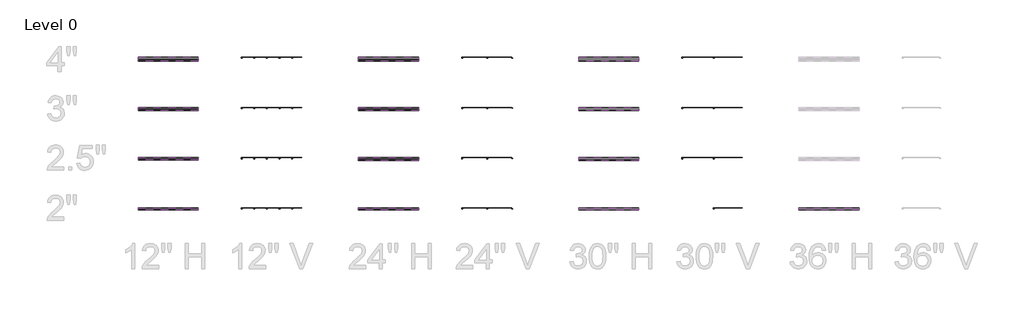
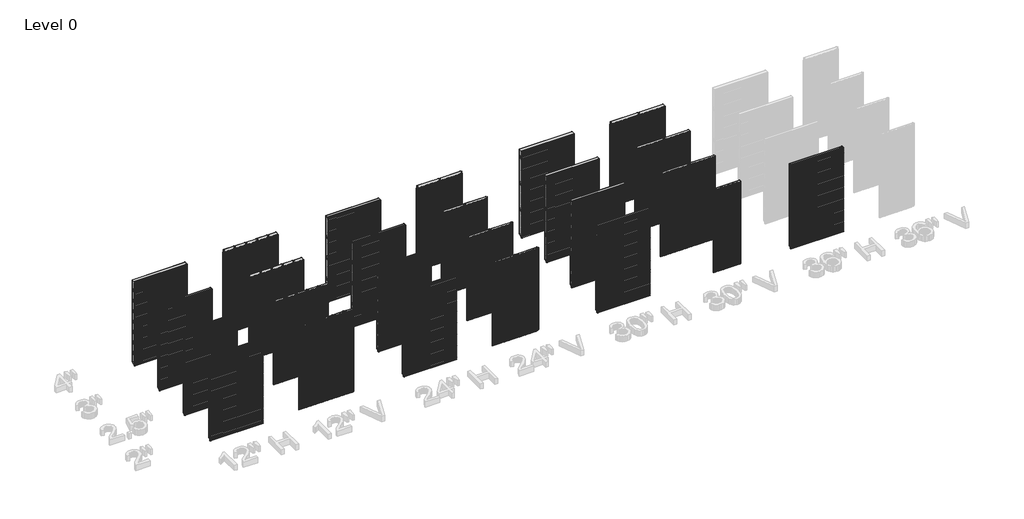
# One storey, part 1 of 5: 102 plates.
"""IFC4 building model written with IfcOpenShell, lengths in millimetres."""

from ifc_helpers import new_model, si_unit, origin, place, context, project, spatial, transform, mapped, element, save
from components import plate_3e87048a, plate_a52f081f, plate_64ede34e, plate_5dd44344, plate_45945243, plate_d9096f4b, plate_2a746afc, plate_29fb56dc, plate_127f21c6, plate_3a640c50, plate_d8e40084, plate_45d4bc66, plate_ac27c202, plate_72ebc10c, plate_b5e3bbd7, plate_971f1716, plate_cbad6302, plate_23679fd6, plate_854ece45, plate_8af9aa11, plate_0a50ad54, plate_96c78911, plate_d13a5570, plate_e58c1bb9, plate_10581ff8, plate_70c22ccc, plate_da60bb30, plate_705a8be8, plate_76d2fa18, plate_c0eab981, plate_2a4f19af, plate_209ea606, plate_c93acdc9, plate_9ff295e8, plate_a8491a3e, plate_1e80f747, plate_344c1e35, plate_840cddba, plate_5aa9691e, plate_24a66fb3, plate_a6e8fc1d, plate_d86a47c3, plate_fa4b8fa4, plate_f1faa5ed, plate_ed56b437

model = new_model("IFC4")

# Units and contexts
model_context = context("Model", 3, world=origin())
ifc_project = project(units=[si_unit("LENGTHUNIT", "METRE", prefix="MILLI")], contexts=[model_context])

# Site, building, storey
site = spatial("IfcSite", under=ifc_project)
building = spatial("IfcBuilding", under=site)
storey = spatial("IfcBuildingStorey", under=building, Name="Level 0", Elevation=0.0)

# Plates
placement = place(None, origin())
plate_shape = plate_3e87048a(model_context)
plate_2_shape = plate_a52f081f(model_context)
element("IfcPlate", 1, ObjectType="KIP-36-DWHR-R19-CP-Hz-S : Hz 2\"", at=placement, inside=storey, context=model_context, shape_type="MappedRepresentation", body=[
    mapped(plate_shape, transform((-13782.7250935, 10881.8207172, 0.0), x_axis=(1.0, 0.0, 0.0), y_axis=(0.0, 1.0, 0.0), z_axis=(0.0, 0.0, 1.0))),
    mapped(plate_2_shape, transform((-13782.7250935, 10881.8207172, 0.0), x_axis=(1.0, 0.0, 0.0), y_axis=(0.0, 1.0, 0.0), z_axis=(0.0, 0.0, 1.0))),
])
element("IfcPlate", 2, ObjectType="KIP-36-DWHR-R19-CP-Hz-S : Hz 2\"", at=placement, inside=storey, context=model_context, shape_type="MappedRepresentation", body=[
    mapped(plate_shape, transform((-13782.7250935, 10881.8207172, 914.4), x_axis=(1.0, 0.0, 0.0), y_axis=(0.0, 1.0, 0.0), z_axis=(0.0, 0.0, 1.0))),
    mapped(plate_2_shape, transform((-13782.7250935, 10881.8207172, 914.4), x_axis=(1.0, 0.0, 0.0), y_axis=(0.0, 1.0, 0.0), z_axis=(0.0, 0.0, 1.0))),
])
plate_3_shape = plate_64ede34e(model_context)
element("IfcPlate", 3, ObjectType="KIP-36-DWHR-R19-CP-Hz-S : Hz 2\"", at=placement, inside=storey, context=model_context, shape_type="MappedRepresentation", body=[
    mapped(plate_3_shape, transform((-13782.7250935, 10881.8207172, 1828.8), x_axis=(1.0, 0.0, 0.0), y_axis=(0.0, 1.0, 0.0), z_axis=(0.0, 0.0, 1.0))),
])
plate_4_shape = plate_5dd44344(model_context)
element("IfcPlate", 4, ObjectType="KIP-30-DWHR-R19-CP-Hz-S : Hz 2\"", at=placement, inside=storey, context=model_context, shape_type="MappedRepresentation", body=[
    mapped(plate_4_shape, transform((-19116.7250935, 10881.8207172, 0.0), x_axis=(1.0, 0.0, 0.0), y_axis=(0.0, 1.0, 0.0), z_axis=(0.0, 0.0, 1.0))),
])
element("IfcPlate", 5, ObjectType="KIP-30-DWHR-R19-CP-Hz-S : Hz 2\"", at=placement, inside=storey, context=model_context, shape_type="MappedRepresentation", body=[
    mapped(plate_4_shape, transform((-19116.7250935, 10881.8207172, 762.0), x_axis=(1.0, 0.0, 0.0), y_axis=(0.0, 1.0, 0.0), z_axis=(0.0, 0.0, 1.0))),
])
element("IfcPlate", 6, ObjectType="KIP-30-DWHR-R19-CP-Hz-S : Hz 2\"", at=placement, inside=storey, context=model_context, shape_type="MappedRepresentation", body=[
    mapped(plate_4_shape, transform((-19116.7250935, 10881.8207172, 1524.0), x_axis=(1.0, 0.0, 0.0), y_axis=(0.0, 1.0, 0.0), z_axis=(0.0, 0.0, 1.0))),
])
plate_5_shape = plate_45945243(model_context)
element("IfcPlate", 7, ObjectType="KIP-30-DWHR-R19-CP-Hz-S : Hz 2\"", at=placement, inside=storey, context=model_context, shape_type="MappedRepresentation", body=[
    mapped(plate_5_shape, transform((-19116.7250935, 10881.8207172, 2286.0), x_axis=(1.0, 0.0, 0.0), y_axis=(0.0, 1.0, 0.0), z_axis=(0.0, 0.0, 1.0))),
])
plate_6_shape = plate_d9096f4b(model_context)
element("IfcPlate", 8, ObjectType="KIP-24-DWHR-R19-CP-Hz-S : Hz 2\"", at=placement, inside=storey, context=model_context, shape_type="MappedRepresentation", body=[
    mapped(plate_6_shape, transform((-24450.7250935, 10881.8207172, 0.0), x_axis=(1.0, 0.0, 0.0), y_axis=(0.0, 1.0, 0.0), z_axis=(0.0, 0.0, 1.0))),
])
element("IfcPlate", 9, ObjectType="KIP-24-DWHR-R19-CP-Hz-S : Hz 2\"", at=placement, inside=storey, context=model_context, shape_type="MappedRepresentation", body=[
    mapped(plate_6_shape, transform((-24450.7250935, 10881.8207172, 609.6), x_axis=(1.0, 0.0, 0.0), y_axis=(0.0, 1.0, 0.0), z_axis=(0.0, 0.0, 1.0))),
])
element("IfcPlate", 10, ObjectType="KIP-24-DWHR-R19-CP-Hz-S : Hz 2\"", at=placement, inside=storey, context=model_context, shape_type="MappedRepresentation", body=[
    mapped(plate_6_shape, transform((-24450.7250935, 10881.8207172, 1219.2), x_axis=(1.0, 0.0, 0.0), y_axis=(0.0, 1.0, 0.0), z_axis=(0.0, 0.0, 1.0))),
])
plate_7_shape = plate_2a746afc(model_context)
element("IfcPlate", 11, ObjectType="KIP-24-DWHR-R19-CP-Hz-S : Hz 2\"", at=placement, inside=storey, context=model_context, shape_type="MappedRepresentation", body=[
    mapped(plate_7_shape, transform((-24450.7250935, 10881.8207172, 1828.8), x_axis=(1.0, 0.0, 0.0), y_axis=(0.0, 1.0, 0.0), z_axis=(0.0, 0.0, 1.0))),
])
plate_8_shape = plate_29fb56dc(model_context)
element("IfcPlate", 12, ObjectType="KIP-12-DWHR-R19-CP-Hz-S : Hz 2\"", at=placement, inside=storey, context=model_context, shape_type="MappedRepresentation", body=[
    mapped(plate_8_shape, transform((-29784.7250935, 10881.8207172, 0.0), x_axis=(1.0, 0.0, 0.0), y_axis=(0.0, 1.0, 0.0), z_axis=(0.0, 0.0, 1.0))),
])
element("IfcPlate", 13, ObjectType="KIP-12-DWHR-R19-CP-Hz-S : Hz 2\"", at=placement, inside=storey, context=model_context, shape_type="MappedRepresentation", body=[
    mapped(plate_8_shape, transform((-29784.7250935, 10881.8207172, 304.8), x_axis=(1.0, 0.0, 0.0), y_axis=(0.0, 1.0, 0.0), z_axis=(0.0, 0.0, 1.0))),
])
element("IfcPlate", 14, ObjectType="KIP-12-DWHR-R19-CP-Hz-S : Hz 2\"", at=placement, inside=storey, context=model_context, shape_type="MappedRepresentation", body=[
    mapped(plate_8_shape, transform((-29784.7250935, 10881.8207172, 609.6), x_axis=(1.0, 0.0, 0.0), y_axis=(0.0, 1.0, 0.0), z_axis=(0.0, 0.0, 1.0))),
])
element("IfcPlate", 15, ObjectType="KIP-12-DWHR-R19-CP-Hz-S : Hz 2\"", at=placement, inside=storey, context=model_context, shape_type="MappedRepresentation", body=[
    mapped(plate_8_shape, transform((-29784.7250935, 10881.8207172, 914.4), x_axis=(1.0, 0.0, 0.0), y_axis=(0.0, 1.0, 0.0), z_axis=(0.0, 0.0, 1.0))),
])
element("IfcPlate", 16, ObjectType="KIP-12-DWHR-R19-CP-Hz-S : Hz 2\"", at=placement, inside=storey, context=model_context, shape_type="MappedRepresentation", body=[
    mapped(plate_8_shape, transform((-29784.7250935, 10881.8207172, 1219.2), x_axis=(1.0, 0.0, 0.0), y_axis=(0.0, 1.0, 0.0), z_axis=(0.0, 0.0, 1.0))),
])
element("IfcPlate", 17, ObjectType="KIP-12-DWHR-R19-CP-Hz-S : Hz 2\"", at=placement, inside=storey, context=model_context, shape_type="MappedRepresentation", body=[
    mapped(plate_8_shape, transform((-29784.7250935, 10881.8207172, 1524.0), x_axis=(1.0, 0.0, 0.0), y_axis=(0.0, 1.0, 0.0), z_axis=(0.0, 0.0, 1.0))),
])
element("IfcPlate", 18, ObjectType="KIP-12-DWHR-R19-CP-Hz-S : Hz 2\"", at=placement, inside=storey, context=model_context, shape_type="MappedRepresentation", body=[
    mapped(plate_8_shape, transform((-29784.7250935, 10881.8207172, 1828.8), x_axis=(1.0, 0.0, 0.0), y_axis=(0.0, 1.0, 0.0), z_axis=(0.0, 0.0, 1.0))),
])
plate_9_shape = plate_127f21c6(model_context)
element("IfcPlate", 19, ObjectType="KIP-12-DWHR-R19-CP-Hz-S : Hz 2\"", at=placement, inside=storey, context=model_context, shape_type="MappedRepresentation", body=[
    mapped(plate_9_shape, transform((-29784.7250935, 10881.8207172, 2133.6), x_axis=(1.0, 0.0, 0.0), y_axis=(0.0, 1.0, 0.0), z_axis=(0.0, 0.0, 1.0))),
])
plate_10_shape = plate_3a640c50(model_context)
element("IfcPlate", 20, ObjectType="KIP-30-DWHR-R19-CP-Hz-S : Hz 2.5\"", at=placement, inside=storey, context=model_context, shape_type="MappedRepresentation", body=[
    mapped(plate_10_shape, transform((-19116.7250935, 12101.0207172, 0.0), x_axis=(1.0, 0.0, 0.0), y_axis=(0.0, 1.0, 0.0), z_axis=(0.0, 0.0, 1.0))),
])
element("IfcPlate", 21, ObjectType="KIP-30-DWHR-R19-CP-Hz-S : Hz 2.5\"", at=placement, inside=storey, context=model_context, shape_type="MappedRepresentation", body=[
    mapped(plate_10_shape, transform((-19116.7250935, 12101.0207172, 762.0), x_axis=(1.0, 0.0, 0.0), y_axis=(0.0, 1.0, 0.0), z_axis=(0.0, 0.0, 1.0))),
])
element("IfcPlate", 22, ObjectType="KIP-30-DWHR-R19-CP-Hz-S : Hz 2.5\"", at=placement, inside=storey, context=model_context, shape_type="MappedRepresentation", body=[
    mapped(plate_10_shape, transform((-19116.7250935, 12101.0207172, 1524.0), x_axis=(1.0, 0.0, 0.0), y_axis=(0.0, 1.0, 0.0), z_axis=(0.0, 0.0, 1.0))),
])
plate_11_shape = plate_d8e40084(model_context)
element("IfcPlate", 23, ObjectType="KIP-30-DWHR-R19-CP-Hz-S : Hz 2.5\"", at=placement, inside=storey, context=model_context, shape_type="MappedRepresentation", body=[
    mapped(plate_11_shape, transform((-19116.7250935, 12101.0207172, 2286.0), x_axis=(1.0, 0.0, 0.0), y_axis=(0.0, 1.0, 0.0), z_axis=(0.0, 0.0, 1.0))),
])
plate_12_shape = plate_45d4bc66(model_context)
element("IfcPlate", 24, ObjectType="KIP-24-DWHR-R19-CP-Hz-S : Hz 2.5\"", at=placement, inside=storey, context=model_context, shape_type="MappedRepresentation", body=[
    mapped(plate_12_shape, transform((-24450.7250935, 12101.0207172, 0.0), x_axis=(1.0, 0.0, 0.0), y_axis=(0.0, 1.0, 0.0), z_axis=(0.0, 0.0, 1.0))),
])
element("IfcPlate", 25, ObjectType="KIP-24-DWHR-R19-CP-Hz-S : Hz 2.5\"", at=placement, inside=storey, context=model_context, shape_type="MappedRepresentation", body=[
    mapped(plate_12_shape, transform((-24450.7250935, 12101.0207172, 609.6), x_axis=(1.0, 0.0, 0.0), y_axis=(0.0, 1.0, 0.0), z_axis=(0.0, 0.0, 1.0))),
])
element("IfcPlate", 26, ObjectType="KIP-24-DWHR-R19-CP-Hz-S : Hz 2.5\"", at=placement, inside=storey, context=model_context, shape_type="MappedRepresentation", body=[
    mapped(plate_12_shape, transform((-24450.7250935, 12101.0207172, 1219.2), x_axis=(1.0, 0.0, 0.0), y_axis=(0.0, 1.0, 0.0), z_axis=(0.0, 0.0, 1.0))),
])
plate_13_shape = plate_ac27c202(model_context)
element("IfcPlate", 27, ObjectType="KIP-24-DWHR-R19-CP-Hz-S : Hz 2.5\"", at=placement, inside=storey, context=model_context, shape_type="MappedRepresentation", body=[
    mapped(plate_13_shape, transform((-24450.7250935, 12101.0207172, 1828.8), x_axis=(1.0, 0.0, 0.0), y_axis=(0.0, 1.0, 0.0), z_axis=(0.0, 0.0, 1.0))),
])
element("IfcPlate", 28, ObjectType="KIP-12-DWHR-R19-CP-Hz-S : Hz 2.5\"", at=placement, inside=storey, context=model_context, shape_type="MappedRepresentation", body=[
    mapped(plate_8_shape, transform((-29784.7250935, 12101.0207172, 0.0), x_axis=(1.0, 0.0, 0.0), y_axis=(0.0, 1.0, 0.0), z_axis=(0.0, 0.0, 1.0))),
])
element("IfcPlate", 29, ObjectType="KIP-12-DWHR-R19-CP-Hz-S : Hz 2.5\"", at=placement, inside=storey, context=model_context, shape_type="MappedRepresentation", body=[
    mapped(plate_8_shape, transform((-29784.7250935, 12101.0207172, 304.8), x_axis=(1.0, 0.0, 0.0), y_axis=(0.0, 1.0, 0.0), z_axis=(0.0, 0.0, 1.0))),
])
element("IfcPlate", 30, ObjectType="KIP-12-DWHR-R19-CP-Hz-S : Hz 2.5\"", at=placement, inside=storey, context=model_context, shape_type="MappedRepresentation", body=[
    mapped(plate_8_shape, transform((-29784.7250935, 12101.0207172, 609.6), x_axis=(1.0, 0.0, 0.0), y_axis=(0.0, 1.0, 0.0), z_axis=(0.0, 0.0, 1.0))),
])
element("IfcPlate", 31, ObjectType="KIP-12-DWHR-R19-CP-Hz-S : Hz 2.5\"", at=placement, inside=storey, context=model_context, shape_type="MappedRepresentation", body=[
    mapped(plate_8_shape, transform((-29784.7250935, 12101.0207172, 914.4), x_axis=(1.0, 0.0, 0.0), y_axis=(0.0, 1.0, 0.0), z_axis=(0.0, 0.0, 1.0))),
])
element("IfcPlate", 32, ObjectType="KIP-12-DWHR-R19-CP-Hz-S : Hz 2.5\"", at=placement, inside=storey, context=model_context, shape_type="MappedRepresentation", body=[
    mapped(plate_8_shape, transform((-29784.7250935, 12101.0207172, 1219.2), x_axis=(1.0, 0.0, 0.0), y_axis=(0.0, 1.0, 0.0), z_axis=(0.0, 0.0, 1.0))),
])
element("IfcPlate", 33, ObjectType="KIP-12-DWHR-R19-CP-Hz-S : Hz 2.5\"", at=placement, inside=storey, context=model_context, shape_type="MappedRepresentation", body=[
    mapped(plate_8_shape, transform((-29784.7250935, 12101.0207172, 1524.0), x_axis=(1.0, 0.0, 0.0), y_axis=(0.0, 1.0, 0.0), z_axis=(0.0, 0.0, 1.0))),
])
element("IfcPlate", 34, ObjectType="KIP-12-DWHR-R19-CP-Hz-S : Hz 2.5\"", at=placement, inside=storey, context=model_context, shape_type="MappedRepresentation", body=[
    mapped(plate_8_shape, transform((-29784.7250935, 12101.0207172, 1828.8), x_axis=(1.0, 0.0, 0.0), y_axis=(0.0, 1.0, 0.0), z_axis=(0.0, 0.0, 1.0))),
])
element("IfcPlate", 35, ObjectType="KIP-12-DWHR-R19-CP-Hz-S : Hz 2.5\"", at=placement, inside=storey, context=model_context, shape_type="MappedRepresentation", body=[
    mapped(plate_9_shape, transform((-29784.7250935, 12101.0207172, 2133.6), x_axis=(1.0, 0.0, 0.0), y_axis=(0.0, 1.0, 0.0), z_axis=(0.0, 0.0, 1.0))),
])
plate_14_shape = plate_72ebc10c(model_context)
element("IfcPlate", 36, ObjectType="KIP-30-DWHR-R19-CP-Hz-S : Hz 3\"", at=placement, inside=storey, context=model_context, shape_type="MappedRepresentation", body=[
    mapped(plate_14_shape, transform((-19116.7250935, 13320.2207172, 0.0), x_axis=(1.0, 0.0, 0.0), y_axis=(0.0, 1.0, 0.0), z_axis=(0.0, 0.0, 1.0))),
])
element("IfcPlate", 37, ObjectType="KIP-30-DWHR-R19-CP-Hz-S : Hz 3\"", at=placement, inside=storey, context=model_context, shape_type="MappedRepresentation", body=[
    mapped(plate_14_shape, transform((-19116.7250935, 13320.2207172, 762.0), x_axis=(1.0, 0.0, 0.0), y_axis=(0.0, 1.0, 0.0), z_axis=(0.0, 0.0, 1.0))),
])
element("IfcPlate", 38, ObjectType="KIP-30-DWHR-R19-CP-Hz-S : Hz 3\"", at=placement, inside=storey, context=model_context, shape_type="MappedRepresentation", body=[
    mapped(plate_14_shape, transform((-19116.7250935, 13320.2207172, 1524.0), x_axis=(1.0, 0.0, 0.0), y_axis=(0.0, 1.0, 0.0), z_axis=(0.0, 0.0, 1.0))),
])
plate_15_shape = plate_b5e3bbd7(model_context)
element("IfcPlate", 39, ObjectType="KIP-30-DWHR-R19-CP-Hz-S : Hz 3\"", at=placement, inside=storey, context=model_context, shape_type="MappedRepresentation", body=[
    mapped(plate_15_shape, transform((-19116.7250935, 13320.2207172, 2286.0), x_axis=(1.0, 0.0, 0.0), y_axis=(0.0, 1.0, 0.0), z_axis=(0.0, 0.0, 1.0))),
])
plate_16_shape = plate_971f1716(model_context)
element("IfcPlate", 40, ObjectType="KIP-24-DWHR-R19-CP-Hz-S : Hz 3\"", at=placement, inside=storey, context=model_context, shape_type="MappedRepresentation", body=[
    mapped(plate_16_shape, transform((-24450.7250935, 13320.2207172, 0.0), x_axis=(1.0, 0.0, 0.0), y_axis=(0.0, 1.0, 0.0), z_axis=(0.0, 0.0, 1.0))),
])
element("IfcPlate", 41, ObjectType="KIP-24-DWHR-R19-CP-Hz-S : Hz 3\"", at=placement, inside=storey, context=model_context, shape_type="MappedRepresentation", body=[
    mapped(plate_16_shape, transform((-24450.7250935, 13320.2207172, 609.6), x_axis=(1.0, 0.0, 0.0), y_axis=(0.0, 1.0, 0.0), z_axis=(0.0, 0.0, 1.0))),
])
element("IfcPlate", 42, ObjectType="KIP-24-DWHR-R19-CP-Hz-S : Hz 3\"", at=placement, inside=storey, context=model_context, shape_type="MappedRepresentation", body=[
    mapped(plate_16_shape, transform((-24450.7250935, 13320.2207172, 1219.2), x_axis=(1.0, 0.0, 0.0), y_axis=(0.0, 1.0, 0.0), z_axis=(0.0, 0.0, 1.0))),
])
plate_17_shape = plate_cbad6302(model_context)
element("IfcPlate", 43, ObjectType="KIP-24-DWHR-R19-CP-Hz-S : Hz 3\"", at=placement, inside=storey, context=model_context, shape_type="MappedRepresentation", body=[
    mapped(plate_17_shape, transform((-24450.7250935, 13320.2207172, 1828.8), x_axis=(1.0, 0.0, 0.0), y_axis=(0.0, 1.0, 0.0), z_axis=(0.0, 0.0, 1.0))),
])
plate_18_shape = plate_23679fd6(model_context)
element("IfcPlate", 44, ObjectType="KIP-12-DWHR-R19-CP-Hz-S : Hz 3\"", at=placement, inside=storey, context=model_context, shape_type="MappedRepresentation", body=[
    mapped(plate_18_shape, transform((-29784.7250935, 13320.2207172, 0.0), x_axis=(1.0, 0.0, 0.0), y_axis=(0.0, 1.0, 0.0), z_axis=(0.0, 0.0, 1.0))),
])
element("IfcPlate", 45, ObjectType="KIP-12-DWHR-R19-CP-Hz-S : Hz 3\"", at=placement, inside=storey, context=model_context, shape_type="MappedRepresentation", body=[
    mapped(plate_18_shape, transform((-29784.7250935, 13320.2207172, 304.8), x_axis=(1.0, 0.0, 0.0), y_axis=(0.0, 1.0, 0.0), z_axis=(0.0, 0.0, 1.0))),
])
element("IfcPlate", 46, ObjectType="KIP-12-DWHR-R19-CP-Hz-S : Hz 3\"", at=placement, inside=storey, context=model_context, shape_type="MappedRepresentation", body=[
    mapped(plate_18_shape, transform((-29784.7250935, 13320.2207172, 609.6), x_axis=(1.0, 0.0, 0.0), y_axis=(0.0, 1.0, 0.0), z_axis=(0.0, 0.0, 1.0))),
])
element("IfcPlate", 47, ObjectType="KIP-12-DWHR-R19-CP-Hz-S : Hz 3\"", at=placement, inside=storey, context=model_context, shape_type="MappedRepresentation", body=[
    mapped(plate_18_shape, transform((-29784.7250935, 13320.2207172, 914.4), x_axis=(1.0, 0.0, 0.0), y_axis=(0.0, 1.0, 0.0), z_axis=(0.0, 0.0, 1.0))),
])
element("IfcPlate", 48, ObjectType="KIP-12-DWHR-R19-CP-Hz-S : Hz 3\"", at=placement, inside=storey, context=model_context, shape_type="MappedRepresentation", body=[
    mapped(plate_18_shape, transform((-29784.7250935, 13320.2207172, 1219.2), x_axis=(1.0, 0.0, 0.0), y_axis=(0.0, 1.0, 0.0), z_axis=(0.0, 0.0, 1.0))),
])
element("IfcPlate", 49, ObjectType="KIP-12-DWHR-R19-CP-Hz-S : Hz 3\"", at=placement, inside=storey, context=model_context, shape_type="MappedRepresentation", body=[
    mapped(plate_18_shape, transform((-29784.7250935, 13320.2207172, 1524.0), x_axis=(1.0, 0.0, 0.0), y_axis=(0.0, 1.0, 0.0), z_axis=(0.0, 0.0, 1.0))),
])
element("IfcPlate", 50, ObjectType="KIP-12-DWHR-R19-CP-Hz-S : Hz 3\"", at=placement, inside=storey, context=model_context, shape_type="MappedRepresentation", body=[
    mapped(plate_18_shape, transform((-29784.7250935, 13320.2207172, 1828.8), x_axis=(1.0, 0.0, 0.0), y_axis=(0.0, 1.0, 0.0), z_axis=(0.0, 0.0, 1.0))),
])
plate_19_shape = plate_854ece45(model_context)
element("IfcPlate", 51, ObjectType="KIP-12-DWHR-R19-CP-Hz-S : Hz 3\"", at=placement, inside=storey, context=model_context, shape_type="MappedRepresentation", body=[
    mapped(plate_19_shape, transform((-29784.7250935, 13320.2207172, 2133.6), x_axis=(1.0, 0.0, 0.0), y_axis=(0.0, 1.0, 0.0), z_axis=(0.0, 0.0, 1.0))),
])
plate_20_shape = plate_8af9aa11(model_context)
element("IfcPlate", 52, ObjectType="KIP-30-DWHR-R19-CP-Hz-S : Hz 4\"", at=placement, inside=storey, context=model_context, shape_type="MappedRepresentation", body=[
    mapped(plate_20_shape, transform((-19116.7250935, 14539.4207172, 0.0), x_axis=(1.0, 0.0, 0.0), y_axis=(0.0, 1.0, 0.0), z_axis=(0.0, 0.0, 1.0))),
])
element("IfcPlate", 53, ObjectType="KIP-30-DWHR-R19-CP-Hz-S : Hz 4\"", at=placement, inside=storey, context=model_context, shape_type="MappedRepresentation", body=[
    mapped(plate_20_shape, transform((-19116.7250935, 14539.4207172, 762.0), x_axis=(1.0, 0.0, 0.0), y_axis=(0.0, 1.0, 0.0), z_axis=(0.0, 0.0, 1.0))),
])
element("IfcPlate", 54, ObjectType="KIP-30-DWHR-R19-CP-Hz-S : Hz 4\"", at=placement, inside=storey, context=model_context, shape_type="MappedRepresentation", body=[
    mapped(plate_20_shape, transform((-19116.7250935, 14539.4207172, 1524.0), x_axis=(1.0, 0.0, 0.0), y_axis=(0.0, 1.0, 0.0), z_axis=(0.0, 0.0, 1.0))),
])
plate_21_shape = plate_0a50ad54(model_context)
element("IfcPlate", 55, ObjectType="KIP-30-DWHR-R19-CP-Hz-S : Hz 4\"", at=placement, inside=storey, context=model_context, shape_type="MappedRepresentation", body=[
    mapped(plate_21_shape, transform((-19116.7250935, 14539.4207172, 2286.0), x_axis=(1.0, 0.0, 0.0), y_axis=(0.0, 1.0, 0.0), z_axis=(0.0, 0.0, 1.0))),
])
plate_22_shape = plate_96c78911(model_context)
element("IfcPlate", 56, ObjectType="KIP-24-DWHR-R19-CP-Hz-S : Hz 4\"", at=placement, inside=storey, context=model_context, shape_type="MappedRepresentation", body=[
    mapped(plate_22_shape, transform((-24450.7250935, 14539.4207172, 0.0), x_axis=(1.0, 0.0, 0.0), y_axis=(0.0, 1.0, 0.0), z_axis=(0.0, 0.0, 1.0))),
])
element("IfcPlate", 57, ObjectType="KIP-24-DWHR-R19-CP-Hz-S : Hz 4\"", at=placement, inside=storey, context=model_context, shape_type="MappedRepresentation", body=[
    mapped(plate_22_shape, transform((-24450.7250935, 14539.4207172, 609.6), x_axis=(1.0, 0.0, 0.0), y_axis=(0.0, 1.0, 0.0), z_axis=(0.0, 0.0, 1.0))),
])
element("IfcPlate", 58, ObjectType="KIP-24-DWHR-R19-CP-Hz-S : Hz 4\"", at=placement, inside=storey, context=model_context, shape_type="MappedRepresentation", body=[
    mapped(plate_22_shape, transform((-24450.7250935, 14539.4207172, 1219.2), x_axis=(1.0, 0.0, 0.0), y_axis=(0.0, 1.0, 0.0), z_axis=(0.0, 0.0, 1.0))),
])
plate_23_shape = plate_d13a5570(model_context)
element("IfcPlate", 59, ObjectType="KIP-24-DWHR-R19-CP-Hz-S : Hz 4\"", at=placement, inside=storey, context=model_context, shape_type="MappedRepresentation", body=[
    mapped(plate_23_shape, transform((-24450.7250935, 14539.4207172, 1828.8), x_axis=(1.0, 0.0, 0.0), y_axis=(0.0, 1.0, 0.0), z_axis=(0.0, 0.0, 1.0))),
])
plate_24_shape = plate_e58c1bb9(model_context)
element("IfcPlate", 60, ObjectType="KIP-12-DWHR-R19-CP-Hz-S : Hz 4\"", at=placement, inside=storey, context=model_context, shape_type="MappedRepresentation", body=[
    mapped(plate_24_shape, transform((-29784.7250935, 14539.4207172, 0.0), x_axis=(1.0, 0.0, 0.0), y_axis=(0.0, 1.0, 0.0), z_axis=(0.0, 0.0, 1.0))),
])
element("IfcPlate", 61, ObjectType="KIP-12-DWHR-R19-CP-Hz-S : Hz 4\"", at=placement, inside=storey, context=model_context, shape_type="MappedRepresentation", body=[
    mapped(plate_24_shape, transform((-29784.7250935, 14539.4207172, 304.8), x_axis=(1.0, 0.0, 0.0), y_axis=(0.0, 1.0, 0.0), z_axis=(0.0, 0.0, 1.0))),
])
element("IfcPlate", 62, ObjectType="KIP-12-DWHR-R19-CP-Hz-S : Hz 4\"", at=placement, inside=storey, context=model_context, shape_type="MappedRepresentation", body=[
    mapped(plate_24_shape, transform((-29784.7250935, 14539.4207172, 609.6), x_axis=(1.0, 0.0, 0.0), y_axis=(0.0, 1.0, 0.0), z_axis=(0.0, 0.0, 1.0))),
])
element("IfcPlate", 63, ObjectType="KIP-12-DWHR-R19-CP-Hz-S : Hz 4\"", at=placement, inside=storey, context=model_context, shape_type="MappedRepresentation", body=[
    mapped(plate_24_shape, transform((-29784.7250935, 14539.4207172, 914.4), x_axis=(1.0, 0.0, 0.0), y_axis=(0.0, 1.0, 0.0), z_axis=(0.0, 0.0, 1.0))),
])
element("IfcPlate", 64, ObjectType="KIP-12-DWHR-R19-CP-Hz-S : Hz 4\"", at=placement, inside=storey, context=model_context, shape_type="MappedRepresentation", body=[
    mapped(plate_24_shape, transform((-29784.7250935, 14539.4207172, 1219.2), x_axis=(1.0, 0.0, 0.0), y_axis=(0.0, 1.0, 0.0), z_axis=(0.0, 0.0, 1.0))),
])
element("IfcPlate", 65, ObjectType="KIP-12-DWHR-R19-CP-Hz-S : Hz 4\"", at=placement, inside=storey, context=model_context, shape_type="MappedRepresentation", body=[
    mapped(plate_24_shape, transform((-29784.7250935, 14539.4207172, 1524.0), x_axis=(1.0, 0.0, 0.0), y_axis=(0.0, 1.0, 0.0), z_axis=(0.0, 0.0, 1.0))),
])
element("IfcPlate", 66, ObjectType="KIP-12-DWHR-R19-CP-Hz-S : Hz 4\"", at=placement, inside=storey, context=model_context, shape_type="MappedRepresentation", body=[
    mapped(plate_24_shape, transform((-29784.7250935, 14539.4207172, 1828.8), x_axis=(1.0, 0.0, 0.0), y_axis=(0.0, 1.0, 0.0), z_axis=(0.0, 0.0, 1.0))),
])
plate_25_shape = plate_10581ff8(model_context)
element("IfcPlate", 67, ObjectType="KIP-12-DWHR-R19-CP-Hz-S : Hz 4\"", at=placement, inside=storey, context=model_context, shape_type="MappedRepresentation", body=[
    mapped(plate_25_shape, transform((-29784.7250935, 14539.4207172, 2133.6), x_axis=(1.0, 0.0, 0.0), y_axis=(0.0, 1.0, 0.0), z_axis=(0.0, 0.0, 1.0))),
])
plate_26_shape = plate_70c22ccc(model_context)
element("IfcPlate", 68, ObjectType="KIP-30-DWHR-R19-CP-Vt-S : Vt 2\"", at=placement, inside=storey, context=model_context, shape_type="MappedRepresentation", body=[
    mapped(plate_26_shape, transform((-16235.9413834, 10881.8207172, 0.0), x_axis=(1.0, 0.0, 0.0), y_axis=(0.0, 1.0, 0.0), z_axis=(0.0, 0.0, 1.0))),
])
plate_27_shape = plate_da60bb30(model_context)
element("IfcPlate", 69, ObjectType="KIP-24-DWHR-R19-CP-Vt-S : Vt 2\"", at=placement, inside=storey, context=model_context, shape_type="MappedRepresentation", body=[
    mapped(plate_27_shape, transform((-22376.1413834, 10881.8207172, 0.0), x_axis=(1.0, 0.0, 0.0), y_axis=(0.0, 1.0, 0.0), z_axis=(0.0, 0.0, 1.0))),
])
element("IfcPlate", 70, ObjectType="KIP-24-DWHR-R19-CP-Vt-S : Vt 2\"", at=placement, inside=storey, context=model_context, shape_type="MappedRepresentation", body=[
    mapped(plate_27_shape, transform((-21766.5413833, 10881.8207172, 0.0), x_axis=(1.0, 0.0, 0.0), y_axis=(0.0, 1.0, 0.0), z_axis=(0.0, 0.0, 1.0))),
])
plate_28_shape = plate_705a8be8(model_context)
element("IfcPlate", 71, ObjectType="KIP-12-DWHR-R19-CP-Vt-S : Vt 2\"", at=placement, inside=storey, context=model_context, shape_type="MappedRepresentation", body=[
    mapped(plate_28_shape, transform((-27862.5413834, 10881.8207172, 0.0), x_axis=(1.0, 0.0, 0.0), y_axis=(0.0, 1.0, 0.0), z_axis=(0.0, 0.0, 1.0))),
])
element("IfcPlate", 72, ObjectType="KIP-12-DWHR-R19-CP-Vt-S : Vt 2\"", at=placement, inside=storey, context=model_context, shape_type="MappedRepresentation", body=[
    mapped(plate_28_shape, transform((-26948.1413833, 10881.8207172, 0.0), x_axis=(1.0, 0.0, 0.0), y_axis=(0.0, 1.0, 0.0), z_axis=(0.0, 0.0, 1.0))),
])
element("IfcPlate", 73, ObjectType="KIP-12-DWHR-R19-CP-Vt-S : Vt 2\"", at=placement, inside=storey, context=model_context, shape_type="MappedRepresentation", body=[
    mapped(plate_28_shape, transform((-27252.9413833, 10881.8207172, 0.0), x_axis=(1.0, 0.0, 0.0), y_axis=(0.0, 1.0, 0.0), z_axis=(0.0, 0.0, 1.0))),
])
element("IfcPlate", 74, ObjectType="KIP-12-DWHR-R19-CP-Vt-S : Vt 2\"", at=placement, inside=storey, context=model_context, shape_type="MappedRepresentation", body=[
    mapped(plate_28_shape, transform((-27557.7413833, 10881.8207172, 0.0), x_axis=(1.0, 0.0, 0.0), y_axis=(0.0, 1.0, 0.0), z_axis=(0.0, 0.0, 1.0))),
])
plate_29_shape = plate_76d2fa18(model_context)
element("IfcPlate", 75, ObjectType="KIP-12-DWHR-R19-CP-Vt-S : Vt 2\"", at=placement, inside=storey, context=model_context, shape_type="MappedRepresentation", body=[
    mapped(plate_29_shape, transform((-26675.3413834, 10881.8207172, 0.0), x_axis=(1.0, 0.0, 0.0), y_axis=(0.0, 1.0, 0.0), z_axis=(0.0, 0.0, 1.0))),
])
plate_30_shape = plate_c0eab981(model_context)
plate_31_shape = plate_2a4f19af(model_context)
element("IfcPlate", 76, ObjectType="KIP-30-DWHR-R19-CP-Vt-S : Vt 2.5\"", at=placement, inside=storey, context=model_context, shape_type="MappedRepresentation", body=[
    mapped(plate_30_shape, transform((-16965.9413834, 12101.0207172, 0.0), x_axis=(1.0, 0.0, 0.0), y_axis=(0.0, 1.0, 0.0), z_axis=(0.0, 0.0, 1.0))),
    mapped(plate_31_shape, transform((-16965.9413834, 12101.0207172, 0.0), x_axis=(1.0, 0.0, 0.0), y_axis=(0.0, 1.0, 0.0), z_axis=(0.0, 0.0, 1.0))),
])
plate_32_shape = plate_209ea606(model_context)
element("IfcPlate", 77, ObjectType="KIP-30-DWHR-R19-CP-Vt-S : Vt 2.5\"", at=placement, inside=storey, context=model_context, shape_type="MappedRepresentation", body=[
    mapped(plate_32_shape, transform((-16235.9413834, 12101.0207172, 0.0), x_axis=(1.0, 0.0, 0.0), y_axis=(0.0, 1.0, 0.0), z_axis=(0.0, 0.0, 1.0))),
])
plate_33_shape = plate_c93acdc9(model_context)
element("IfcPlate", 78, ObjectType="KIP-24-DWHR-R19-CP-Vt-S : Vt 2.5\"", at=placement, inside=storey, context=model_context, shape_type="MappedRepresentation", body=[
    mapped(plate_33_shape, transform((-22376.1413834, 12101.0207172, 0.0), x_axis=(1.0, 0.0, 0.0), y_axis=(0.0, 1.0, 0.0), z_axis=(0.0, 0.0, 1.0))),
])
element("IfcPlate", 79, ObjectType="KIP-24-DWHR-R19-CP-Vt-S : Vt 2.5\"", at=placement, inside=storey, context=model_context, shape_type="MappedRepresentation", body=[
    mapped(plate_33_shape, transform((-21766.5413833, 12101.0207172, 0.0), x_axis=(1.0, 0.0, 0.0), y_axis=(0.0, 1.0, 0.0), z_axis=(0.0, 0.0, 1.0))),
])
plate_34_shape = plate_9ff295e8(model_context)
element("IfcPlate", 80, ObjectType="KIP-12-DWHR-R19-CP-Vt-S : Vt 2.5\"", at=placement, inside=storey, context=model_context, shape_type="MappedRepresentation", body=[
    mapped(plate_34_shape, transform((-27862.5413834, 12101.0207172, 0.0), x_axis=(1.0, 0.0, 0.0), y_axis=(0.0, 1.0, 0.0), z_axis=(0.0, 0.0, 1.0))),
])
element("IfcPlate", 81, ObjectType="KIP-12-DWHR-R19-CP-Vt-S : Vt 2.5\"", at=placement, inside=storey, context=model_context, shape_type="MappedRepresentation", body=[
    mapped(plate_34_shape, transform((-26948.1413833, 12101.0207172, 0.0), x_axis=(1.0, 0.0, 0.0), y_axis=(0.0, 1.0, 0.0), z_axis=(0.0, 0.0, 1.0))),
])
element("IfcPlate", 82, ObjectType="KIP-12-DWHR-R19-CP-Vt-S : Vt 2.5\"", at=placement, inside=storey, context=model_context, shape_type="MappedRepresentation", body=[
    mapped(plate_34_shape, transform((-27252.9413833, 12101.0207172, 0.0), x_axis=(1.0, 0.0, 0.0), y_axis=(0.0, 1.0, 0.0), z_axis=(0.0, 0.0, 1.0))),
])
element("IfcPlate", 83, ObjectType="KIP-12-DWHR-R19-CP-Vt-S : Vt 2.5\"", at=placement, inside=storey, context=model_context, shape_type="MappedRepresentation", body=[
    mapped(plate_34_shape, transform((-27557.7413833, 12101.0207172, 0.0), x_axis=(1.0, 0.0, 0.0), y_axis=(0.0, 1.0, 0.0), z_axis=(0.0, 0.0, 1.0))),
])
plate_35_shape = plate_a8491a3e(model_context)
element("IfcPlate", 84, ObjectType="KIP-12-DWHR-R19-CP-Vt-S : Vt 2.5\"", at=placement, inside=storey, context=model_context, shape_type="MappedRepresentation", body=[
    mapped(plate_35_shape, transform((-26675.3413834, 12101.0207172, 0.0), x_axis=(1.0, 0.0, 0.0), y_axis=(0.0, 1.0, 0.0), z_axis=(0.0, 0.0, 1.0))),
])
plate_36_shape = plate_1e80f747(model_context)
plate_37_shape = plate_344c1e35(model_context)
element("IfcPlate", 85, ObjectType="KIP-30-DWHR-R19-CP-Vt-S : Vt 3\"", at=placement, inside=storey, context=model_context, shape_type="MappedRepresentation", body=[
    mapped(plate_36_shape, transform((-16965.9413834, 13320.2207172, 0.0), x_axis=(1.0, 0.0, 0.0), y_axis=(0.0, 1.0, 0.0), z_axis=(0.0, 0.0, 1.0))),
    mapped(plate_37_shape, transform((-16965.9413834, 13320.2207172, 0.0), x_axis=(1.0, 0.0, 0.0), y_axis=(0.0, 1.0, 0.0), z_axis=(0.0, 0.0, 1.0))),
])
plate_38_shape = plate_840cddba(model_context)
element("IfcPlate", 86, ObjectType="KIP-30-DWHR-R19-CP-Vt-S : Vt 3\"", at=placement, inside=storey, context=model_context, shape_type="MappedRepresentation", body=[
    mapped(plate_38_shape, transform((-16235.9413834, 13320.2207172, 0.0), x_axis=(1.0, 0.0, 0.0), y_axis=(0.0, 1.0, 0.0), z_axis=(0.0, 0.0, 1.0))),
])
plate_39_shape = plate_5aa9691e(model_context)
element("IfcPlate", 87, ObjectType="KIP-24-DWHR-R19-CP-Vt-S : Vt 3\"", at=placement, inside=storey, context=model_context, shape_type="MappedRepresentation", body=[
    mapped(plate_39_shape, transform((-22376.1413834, 13320.2207172, 0.0), x_axis=(1.0, 0.0, 0.0), y_axis=(0.0, 1.0, 0.0), z_axis=(0.0, 0.0, 1.0))),
])
element("IfcPlate", 88, ObjectType="KIP-24-DWHR-R19-CP-Vt-S : Vt 3\"", at=placement, inside=storey, context=model_context, shape_type="MappedRepresentation", body=[
    mapped(plate_39_shape, transform((-21766.5413833, 13320.2207172, 0.0), x_axis=(1.0, 0.0, 0.0), y_axis=(0.0, 1.0, 0.0), z_axis=(0.0, 0.0, 1.0))),
])
plate_40_shape = plate_24a66fb3(model_context)
element("IfcPlate", 89, ObjectType="KIP-12-DWHR-R19-CP-Vt-S : Vt 3\"", at=placement, inside=storey, context=model_context, shape_type="MappedRepresentation", body=[
    mapped(plate_40_shape, transform((-27862.5413834, 13320.2207172, 0.0), x_axis=(1.0, 0.0, 0.0), y_axis=(0.0, 1.0, 0.0), z_axis=(0.0, 0.0, 1.0))),
])
element("IfcPlate", 90, ObjectType="KIP-12-DWHR-R19-CP-Vt-S : Vt 3\"", at=placement, inside=storey, context=model_context, shape_type="MappedRepresentation", body=[
    mapped(plate_40_shape, transform((-26948.1413833, 13320.2207172, 0.0), x_axis=(1.0, 0.0, 0.0), y_axis=(0.0, 1.0, 0.0), z_axis=(0.0, 0.0, 1.0))),
])
element("IfcPlate", 91, ObjectType="KIP-12-DWHR-R19-CP-Vt-S : Vt 3\"", at=placement, inside=storey, context=model_context, shape_type="MappedRepresentation", body=[
    mapped(plate_40_shape, transform((-27252.9413833, 13320.2207172, 0.0), x_axis=(1.0, 0.0, 0.0), y_axis=(0.0, 1.0, 0.0), z_axis=(0.0, 0.0, 1.0))),
])
element("IfcPlate", 92, ObjectType="KIP-12-DWHR-R19-CP-Vt-S : Vt 3\"", at=placement, inside=storey, context=model_context, shape_type="MappedRepresentation", body=[
    mapped(plate_40_shape, transform((-27557.7413833, 13320.2207172, 0.0), x_axis=(1.0, 0.0, 0.0), y_axis=(0.0, 1.0, 0.0), z_axis=(0.0, 0.0, 1.0))),
])
plate_41_shape = plate_a6e8fc1d(model_context)
element("IfcPlate", 93, ObjectType="KIP-12-DWHR-R19-CP-Vt-S : Vt 3\"", at=placement, inside=storey, context=model_context, shape_type="MappedRepresentation", body=[
    mapped(plate_41_shape, transform((-26675.3413834, 13320.2207172, 0.0), x_axis=(1.0, 0.0, 0.0), y_axis=(0.0, 1.0, 0.0), z_axis=(0.0, 0.0, 1.0))),
])
plate_42_shape = plate_d86a47c3(model_context)
plate_43_shape = plate_fa4b8fa4(model_context)
element("IfcPlate", 94, ObjectType="KIP-30-DWHR-R19-CP-Vt-S : Vt 4\"", at=placement, inside=storey, context=model_context, shape_type="MappedRepresentation", body=[
    mapped(plate_42_shape, transform((-16965.9413834, 14539.4207172, 0.0), x_axis=(1.0, 0.0, 0.0), y_axis=(0.0, 1.0, 0.0), z_axis=(0.0, 0.0, 1.0))),
    mapped(plate_43_shape, transform((-16965.9413834, 14539.4207172, 0.0), x_axis=(1.0, 0.0, 0.0), y_axis=(0.0, 1.0, 0.0), z_axis=(0.0, 0.0, 1.0))),
])
plate_44_shape = plate_f1faa5ed(model_context)
element("IfcPlate", 95, ObjectType="KIP-30-DWHR-R19-CP-Vt-S : Vt 4\"", at=placement, inside=storey, context=model_context, shape_type="MappedRepresentation", body=[
    mapped(plate_44_shape, transform((-16235.9413834, 14539.4207172, 0.0), x_axis=(1.0, 0.0, 0.0), y_axis=(0.0, 1.0, 0.0), z_axis=(0.0, 0.0, 1.0))),
])
plate_45_shape = plate_ed56b437(model_context)
element("IfcPlate", 96, ObjectType="KIP-24-DWHR-R19-CP-Vt-S : Vt 4\"", at=placement, inside=storey, context=model_context, shape_type="MappedRepresentation", body=[
    mapped(plate_45_shape, transform((-22376.1413834, 14539.4207172, 0.0), x_axis=(1.0, 0.0, 0.0), y_axis=(0.0, 1.0, 0.0), z_axis=(0.0, 0.0, 1.0))),
])
element("IfcPlate", 97, ObjectType="KIP-24-DWHR-R19-CP-Vt-S : Vt 4\"", at=placement, inside=storey, context=model_context, shape_type="MappedRepresentation", body=[
    mapped(plate_45_shape, transform((-21766.5413833, 14539.4207172, 0.0), x_axis=(1.0, 0.0, 0.0), y_axis=(0.0, 1.0, 0.0), z_axis=(0.0, 0.0, 1.0))),
])
element("IfcPlate", 98, ObjectType="KIP-12-DWHR-R19-CP-Vt-S : Vt 4\"", at=placement, inside=storey, context=model_context, shape_type="MappedRepresentation", body=[
    mapped(plate_40_shape, transform((-27862.5413834, 14539.4207172, 0.0), x_axis=(1.0, 0.0, 0.0), y_axis=(0.0, 1.0, 0.0), z_axis=(0.0, 0.0, 1.0))),
])
element("IfcPlate", 99, ObjectType="KIP-12-DWHR-R19-CP-Vt-S : Vt 4\"", at=placement, inside=storey, context=model_context, shape_type="MappedRepresentation", body=[
    mapped(plate_40_shape, transform((-26948.1413833, 14539.4207172, 0.0), x_axis=(1.0, 0.0, 0.0), y_axis=(0.0, 1.0, 0.0), z_axis=(0.0, 0.0, 1.0))),
])
element("IfcPlate", 100, ObjectType="KIP-12-DWHR-R19-CP-Vt-S : Vt 4\"", at=placement, inside=storey, context=model_context, shape_type="MappedRepresentation", body=[
    mapped(plate_40_shape, transform((-27252.9413833, 14539.4207172, 0.0), x_axis=(1.0, 0.0, 0.0), y_axis=(0.0, 1.0, 0.0), z_axis=(0.0, 0.0, 1.0))),
])
element("IfcPlate", 101, ObjectType="KIP-12-DWHR-R19-CP-Vt-S : Vt 4\"", at=placement, inside=storey, context=model_context, shape_type="MappedRepresentation", body=[
    mapped(plate_40_shape, transform((-27557.7413833, 14539.4207172, 0.0), x_axis=(1.0, 0.0, 0.0), y_axis=(0.0, 1.0, 0.0), z_axis=(0.0, 0.0, 1.0))),
])
element("IfcPlate", 102, ObjectType="KIP-12-DWHR-R19-CP-Vt-S : Vt 4\"", at=placement, inside=storey, context=model_context, shape_type="MappedRepresentation", body=[
    mapped(plate_41_shape, transform((-26675.3413834, 14539.4207172, 0.0), x_axis=(1.0, 0.0, 0.0), y_axis=(0.0, 1.0, 0.0), z_axis=(0.0, 0.0, 1.0))),
])

save(model, "model.ifc")
